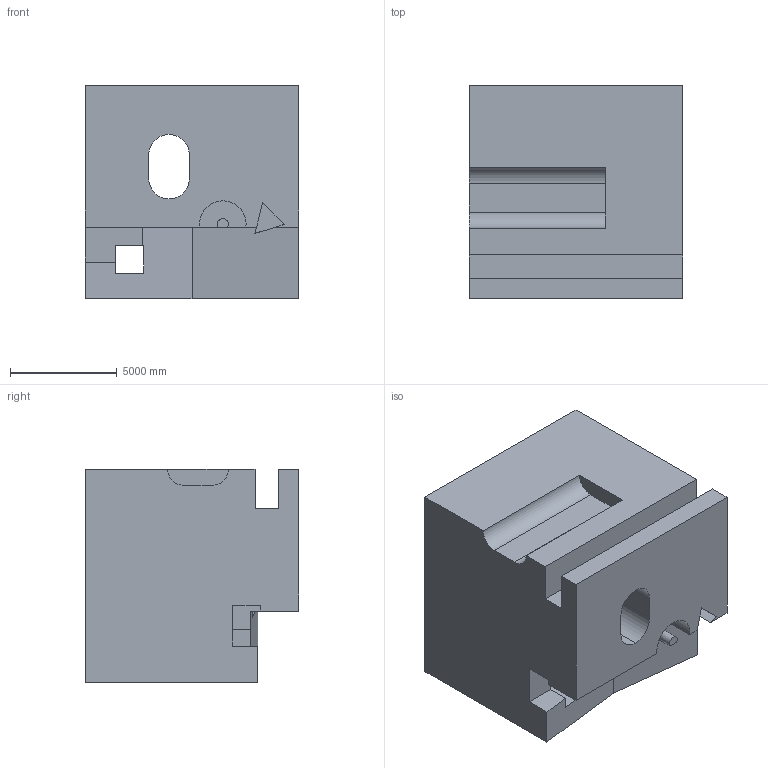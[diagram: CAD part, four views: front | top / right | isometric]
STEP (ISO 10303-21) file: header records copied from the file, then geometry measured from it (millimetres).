
FILE_DESCRIPTION (( 'STEP AP203' ), '1' );
FILE_NAME ('956.STEP', '2022-07-29T14:40:06', ( 'user' ), ( '' ), 'SwSTEP 2.0', 'SolidWorks 2021', '' );
FILE_SCHEMA (( 'CONFIG_CONTROL_DESIGN' ));
Length unit declared in the file: centimetre
Products named in the file (1): 956
Bounding box: 10000 x 10000 x 10000 mm (x, y, z)
Volume: 804304994171 mm3; surface area: 779665880 mm2
Topology: 1 solids, 1 shells, 46 faces, 132 edges, 88 vertices
Faces by surface type: plane 37, cylinder 9
Entity records: 1579 total; most frequent: CARTESIAN_POINT 267, ORIENTED_EDGE 264, DIRECTION 244, EDGE_CURVE 132, VECTOR 114, LINE 114, VERTEX_POINT 88, AXIS2_PLACEMENT_3D 65
